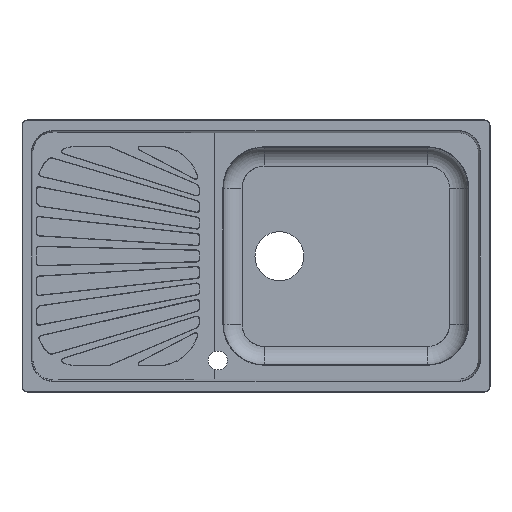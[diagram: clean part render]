
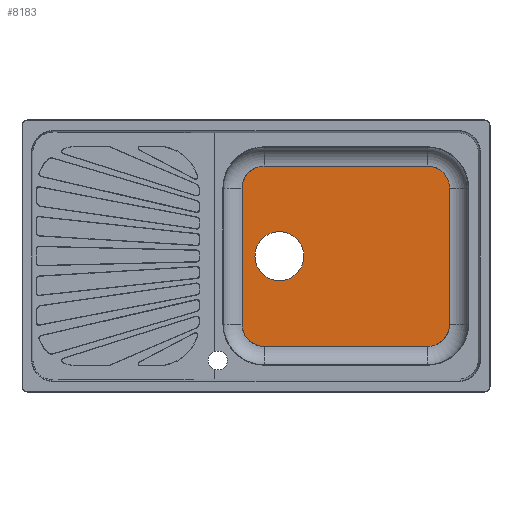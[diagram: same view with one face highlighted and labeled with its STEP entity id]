
A CAD part, top view. The second image highlights one B-rep face of the part: STEP entity #8183.
In plain terms, the highlighted planar face has unit normal (0, 0, 1).
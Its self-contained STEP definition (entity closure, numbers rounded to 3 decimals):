
#8019=CARTESIAN_POINT('Vertex',(88.,0.,-202.9)) ;
#8022=CARTESIAN_POINT('Axis2P3D Location',(43.,0.,-202.9)) ;
#8026=CARTESIAN_POINT('Vertex',(-2.,0.,-202.9)) ;
#8041=CARTESIAN_POINT('Axis2P3D Location',(43.,0.,-202.9)) ;
#8084=CARTESIAN_POINT('Axis2P3D Location',(165.,0.,-202.9)) ;
#8090=CARTESIAN_POINT('Control Point',(315.,-165.7,-202.9)) ;
#8091=CARTESIAN_POINT('Control Point',(321.393,-165.7,-202.9)) ;
#8092=CARTESIAN_POINT('Control Point',(327.786,-164.445,-202.9)) ;
#8093=CARTESIAN_POINT('Control Point',(333.85,-161.933,-202.9)) ;
#8094=CARTESIAN_POINT('Control Point',(344.667,-154.667,-202.9)) ;
#8095=CARTESIAN_POINT('Control Point',(351.933,-143.85,-202.9)) ;
#8096=CARTESIAN_POINT('Control Point',(354.445,-137.786,-202.9)) ;
#8097=CARTESIAN_POINT('Control Point',(355.7,-131.393,-202.9)) ;
#8098=CARTESIAN_POINT('Control Point',(355.7,-125.,-202.9)) ;
#8099=CARTESIAN_POINT('Vertex',(315.,-165.7,-202.9)) ;
#8101=CARTESIAN_POINT('Vertex',(355.7,-125.,-202.9)) ;
#8104=CARTESIAN_POINT('Line Origine',(355.7,0.,-202.9)) ;
#8108=CARTESIAN_POINT('Vertex',(355.7,125.,-202.9)) ;
#8112=CARTESIAN_POINT('Control Point',(355.7,125.,-202.9)) ;
#8113=CARTESIAN_POINT('Control Point',(355.7,131.393,-202.9)) ;
#8114=CARTESIAN_POINT('Control Point',(354.445,137.786,-202.9)) ;
#8115=CARTESIAN_POINT('Control Point',(351.933,143.85,-202.9)) ;
#8116=CARTESIAN_POINT('Control Point',(344.667,154.667,-202.9)) ;
#8117=CARTESIAN_POINT('Control Point',(333.85,161.933,-202.9)) ;
#8118=CARTESIAN_POINT('Control Point',(327.786,164.445,-202.9)) ;
#8119=CARTESIAN_POINT('Control Point',(321.393,165.7,-202.9)) ;
#8120=CARTESIAN_POINT('Control Point',(315.,165.7,-202.9)) ;
#8121=CARTESIAN_POINT('Vertex',(315.,165.7,-202.9)) ;
#8124=CARTESIAN_POINT('Line Origine',(165.,165.7,-202.9)) ;
#8128=CARTESIAN_POINT('Vertex',(15.,165.7,-202.9)) ;
#8132=CARTESIAN_POINT('Control Point',(15.,165.7,-202.9)) ;
#8133=CARTESIAN_POINT('Control Point',(8.607,165.7,-202.9)) ;
#8134=CARTESIAN_POINT('Control Point',(2.214,164.445,-202.9)) ;
#8135=CARTESIAN_POINT('Control Point',(-3.85,161.933,-202.9)) ;
#8136=CARTESIAN_POINT('Control Point',(-14.667,154.667,-202.9)) ;
#8137=CARTESIAN_POINT('Control Point',(-21.933,143.85,-202.9)) ;
#8138=CARTESIAN_POINT('Control Point',(-24.445,137.786,-202.9)) ;
#8139=CARTESIAN_POINT('Control Point',(-25.7,131.393,-202.9)) ;
#8140=CARTESIAN_POINT('Control Point',(-25.7,125.,-202.9)) ;
#8141=CARTESIAN_POINT('Vertex',(-25.7,125.,-202.9)) ;
#8144=CARTESIAN_POINT('Line Origine',(-25.7,0.,-202.9)) ;
#8148=CARTESIAN_POINT('Vertex',(-25.7,-125.,-202.9)) ;
#8152=CARTESIAN_POINT('Control Point',(-25.7,-125.,-202.9)) ;
#8153=CARTESIAN_POINT('Control Point',(-25.7,-131.393,-202.9)) ;
#8154=CARTESIAN_POINT('Control Point',(-24.445,-137.786,-202.9)) ;
#8155=CARTESIAN_POINT('Control Point',(-21.933,-143.85,-202.9)) ;
#8156=CARTESIAN_POINT('Control Point',(-14.667,-154.667,-202.9)) ;
#8157=CARTESIAN_POINT('Control Point',(-3.85,-161.933,-202.9)) ;
#8158=CARTESIAN_POINT('Control Point',(2.214,-164.445,-202.9)) ;
#8159=CARTESIAN_POINT('Control Point',(8.607,-165.7,-202.9)) ;
#8160=CARTESIAN_POINT('Control Point',(15.,-165.7,-202.9)) ;
#8161=CARTESIAN_POINT('Vertex',(15.,-165.7,-202.9)) ;
#8164=CARTESIAN_POINT('Line Origine',(165.,-165.7,-202.9)) ;
#8023=DIRECTION('Axis2P3D Direction',(0.,0.,1.)) ;
#8042=DIRECTION('Axis2P3D Direction',(0.,0.,1.)) ;
#8085=DIRECTION('Axis2P3D Direction',(0.,0.,1.)) ;
#8086=DIRECTION('Axis2P3D XDirection',(1.,0.,0.)) ;
#8105=DIRECTION('Vector Direction',(0.,1.,0.)) ;
#8125=DIRECTION('Vector Direction',(1.,0.,0.)) ;
#8145=DIRECTION('Vector Direction',(0.,1.,0.)) ;
#8165=DIRECTION('Vector Direction',(1.,0.,0.)) ;
#8024=AXIS2_PLACEMENT_3D('Circle Axis2P3D',#8022,#8023,$) ;
#8043=AXIS2_PLACEMENT_3D('Circle Axis2P3D',#8041,#8042,$) ;
#8087=AXIS2_PLACEMENT_3D('Plane Axis2P3D',#8084,#8085,#8086) ;
#8170=ORIENTED_EDGE('',*,*,#8103,.T.) ;
#8171=ORIENTED_EDGE('',*,*,#8110,.F.) ;
#8172=ORIENTED_EDGE('',*,*,#8123,.T.) ;
#8173=ORIENTED_EDGE('',*,*,#8130,.F.) ;
#8174=ORIENTED_EDGE('',*,*,#8143,.T.) ;
#8175=ORIENTED_EDGE('',*,*,#8150,.F.) ;
#8176=ORIENTED_EDGE('',*,*,#8163,.T.) ;
#8177=ORIENTED_EDGE('',*,*,#8168,.F.) ;
#8180=ORIENTED_EDGE('',*,*,#8028,.F.) ;
#8181=ORIENTED_EDGE('',*,*,#8045,.F.) ;
#8182=FACE_BOUND('',#8179,.T.) ;
#8106=VECTOR('Line Direction',#8105,1.) ;
#8126=VECTOR('Line Direction',#8125,1.) ;
#8146=VECTOR('Line Direction',#8145,1.) ;
#8166=VECTOR('Line Direction',#8165,1.) ;
#8183=ADVANCED_FACE('Vasca-45',(#8178,#8182),#8088,.T.) ;
#8089=B_SPLINE_CURVE_WITH_KNOTS('',5,(#8090,#8091,#8092,#8093,#8094,#8095,#8096,#8097,#8098),.UNSPECIFIED.,.F.,.U.,(6,3,6),(191.794,223.76,255.726),.UNSPECIFIED.) ;
#8111=B_SPLINE_CURVE_WITH_KNOTS('',5,(#8112,#8113,#8114,#8115,#8116,#8117,#8118,#8119,#8120),.UNSPECIFIED.,.F.,.U.,(6,3,6),(0.,31.966,63.931),.UNSPECIFIED.) ;
#8131=B_SPLINE_CURVE_WITH_KNOTS('',5,(#8132,#8133,#8134,#8135,#8136,#8137,#8138,#8139,#8140),.UNSPECIFIED.,.F.,.U.,(6,3,6),(63.931,95.897,127.863),.UNSPECIFIED.) ;
#8151=B_SPLINE_CURVE_WITH_KNOTS('',5,(#8152,#8153,#8154,#8155,#8156,#8157,#8158,#8159,#8160),.UNSPECIFIED.,.F.,.U.,(6,3,6),(127.863,159.829,191.794),.UNSPECIFIED.) ;
#8025=CIRCLE('generated circle',#8024,45.) ;
#8044=CIRCLE('generated circle',#8043,45.) ;
#8028=EDGE_CURVE('',#8020,#8027,#8025,.T.) ;
#8045=EDGE_CURVE('',#8027,#8020,#8044,.T.) ;
#8103=EDGE_CURVE('',#8100,#8102,#8089,.T.) ;
#8110=EDGE_CURVE('',#8109,#8102,#8107,.F.) ;
#8123=EDGE_CURVE('',#8109,#8122,#8111,.T.) ;
#8130=EDGE_CURVE('',#8129,#8122,#8127,.T.) ;
#8143=EDGE_CURVE('',#8129,#8142,#8131,.T.) ;
#8150=EDGE_CURVE('',#8149,#8142,#8147,.T.) ;
#8163=EDGE_CURVE('',#8149,#8162,#8151,.T.) ;
#8168=EDGE_CURVE('',#8100,#8162,#8167,.F.) ;
#8169=EDGE_LOOP('',(#8170,#8171,#8172,#8173,#8174,#8175,#8176,#8177)) ;
#8179=EDGE_LOOP('',(#8180,#8181)) ;
#8178=FACE_OUTER_BOUND('',#8169,.T.) ;
#8107=LINE('Line',#8104,#8106) ;
#8127=LINE('Line',#8124,#8126) ;
#8147=LINE('Line',#8144,#8146) ;
#8167=LINE('Line',#8164,#8166) ;
#8088=PLANE('',#8087) ;
#8020=VERTEX_POINT('',#8019) ;
#8027=VERTEX_POINT('',#8026) ;
#8100=VERTEX_POINT('',#8099) ;
#8102=VERTEX_POINT('',#8101) ;
#8109=VERTEX_POINT('',#8108) ;
#8122=VERTEX_POINT('',#8121) ;
#8129=VERTEX_POINT('',#8128) ;
#8142=VERTEX_POINT('',#8141) ;
#8149=VERTEX_POINT('',#8148) ;
#8162=VERTEX_POINT('',#8161) ;
